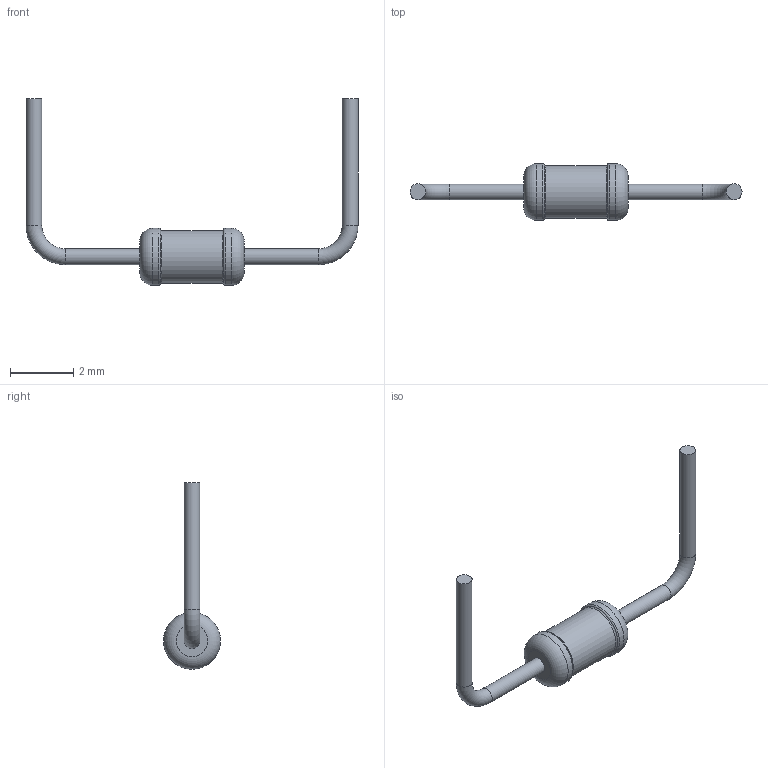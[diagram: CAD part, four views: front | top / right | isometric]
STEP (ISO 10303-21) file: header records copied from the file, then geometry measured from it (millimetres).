
FILE_DESCRIPTION(('STEP AP203'), '1');
FILE_NAME('ﾑ2-29ﾂ-0,062ﾀﾈ(1)', '', ('UNSPECIFIED'), ('UNSPECIFIED'), 'ASCON STEP Converter 1.6', 'ASCON Math Kernel', '');
FILE_SCHEMA(('CONFIG_CONTROL_DESIGN'));
Length unit declared in the file: millimetre
Bounding box: 10.5 x 1.8 x 5.9 mm (x, y, z)
Volume: 10.4 mm3; surface area: 46 mm2
Topology: 1 solids, 1 shells, 19 faces, 33 edges, 18 vertices
Faces by surface type: torus 8, cylinder 7, plane 4
Full cylindrical faces by diameter (mm): 0.5 x4, 1.656 x1, 1.8 x2
Entity records: 570 total; most frequent: DIRECTION 76, CARTESIAN_POINT 56, AXIS2_PLACEMENT_3D 38, EDGE_LOOP 36, ORIENTED_EDGE 36, FACE_OUTER_BOUND 30, COLOUR_RGB 20, FILL_AREA_STYLE_COLOUR 20
